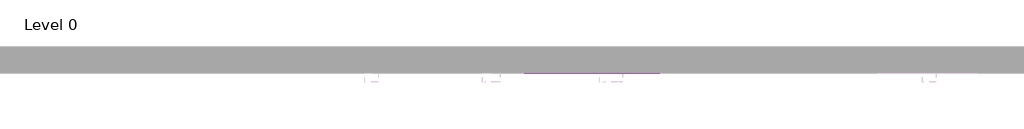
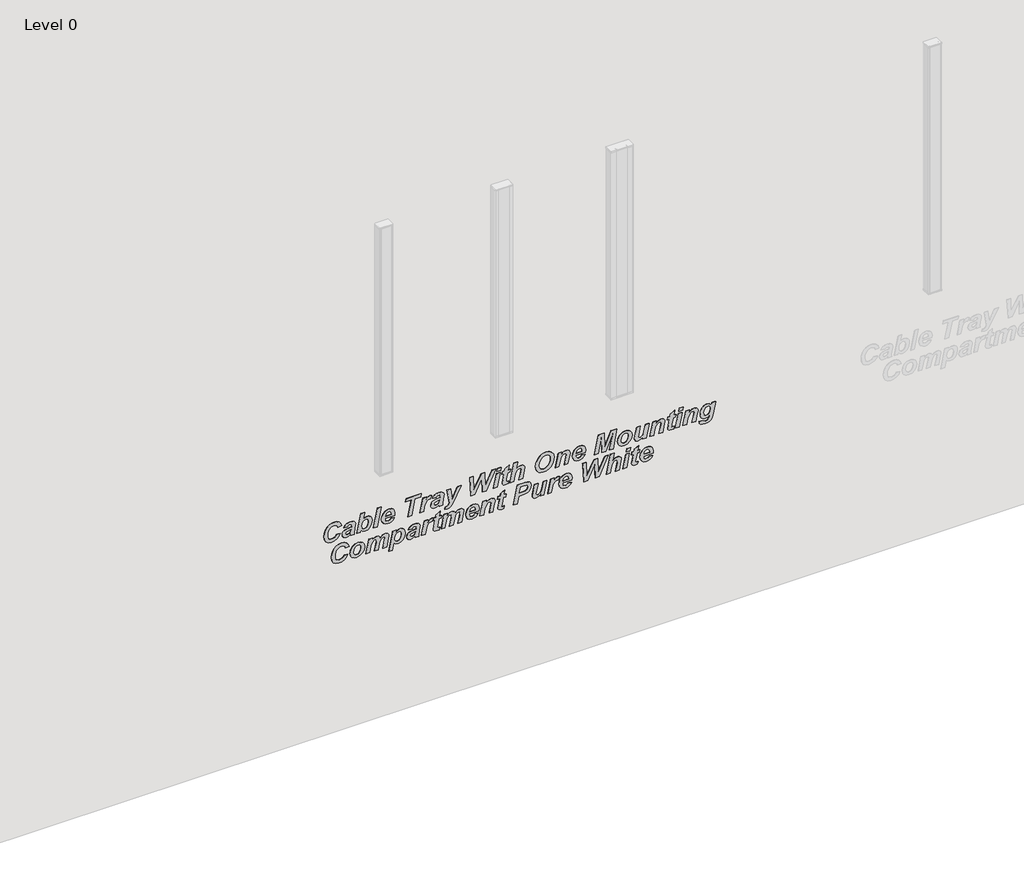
# One storey, part 2 of 5: 1 proxy.
"""IFC4 building model written with IfcOpenShell, lengths in millimetres."""

from ifc_helpers import new_model, si_unit, frame, origin, place, context, project, spatial, polyline, outline, extrude, element, save

model = new_model("IFC4")

# Units and contexts
model_context = context("Model", 3, world=origin())
ifc_project = project(units=[si_unit("LENGTHUNIT", "METRE", prefix="MILLI")], contexts=[model_context])

# Site, building, storey
site = spatial("IfcSite", under=ifc_project)
building = spatial("IfcBuilding", under=site)
storey = spatial("IfcBuildingStorey", under=building, Name="Level 0", Elevation=0.0)

# Proxy
placement = place(None, origin())
element("IfcBuildingElementProxy", 1, Name="200 mm Arial", ObjectType="200 mm Arial", at=placement, inside=storey, context=model_context, shape_type="SweptSolid", body=[
    extrude(outline(polyline([(1591.7743973, -11943.7217466), (1581.4274851, -11950.088004), (1573.973058, -11959.0677287), (1567.9648735, -11981.6681751), (1570.41093, -11993.8566052), (1577.7490996, -12003.8593954), (1589.5794568, -12010.5418731), (1605.5020758, -12012.7693656), (1621.9222767, -12011.0580561), (1638.3703794, -12005.9241275), (1652.6560937, -11997.9395665), (1662.5891294, -11987.6763597), (1668.4066517, -11975.8413522), (1670.3458258, -11963.1413894), (1668.9367857, -11952.3294475), (1664.7096651, -11943.9263597), (1657.348244, -11937.8949237), (1646.536302, -11934.1979371), (1649.2892782, -11905.6265085), (1668.8670312, -11911.3510248), (1683.8502901, -11923.2418359), (1693.364799, -11940.5269921), (1696.536302, -11962.4345442), (1693.7321726, -11983.1981231), (1685.3197842, -12002.3340978), (1671.6153571, -12018.6612927), (1652.9351115, -12030.9985323), (1630.6787871, -12038.7552287), (1606.2461235, -12041.3407942), (1578.5396502, -12037.5368507), (1558.2922544, -12026.1250204), (1545.9038615, -12007.9516573), (1541.7743973, -11983.8631156), (1544.7505877, -11961.3928775), (1553.6791592, -11941.9732347), (1568.2438913, -11926.3203329), (1588.1285639, -11915.150318), (1591.7743973, -11943.7217466)])), frame((0.0, 4018.0812827, 0.0), z_axis=(0.0, 1.0, 0.0), x_axis=(0.0, 0.0, 1.0)), (0.0, 0.0, 1.0), 3.0),
    extrude(outline(polyline([(1622.7267782, -11860.3884132), (1631.5251413, -11854.2500204), (1634.6315401, -11841.9360323), (1631.3763318, -11830.8125204), (1623.2848139, -11827.0550799), (1613.2029687, -11828.9896037), (1609.036302, -11856.8913894), (1605.2742112, -11877.8502808), (1597.8569865, -11891.2477882), (1587.0636458, -11898.4603998), (1573.1732068, -11900.8646037), (1560.598802, -11898.697565), (1550.5541592, -11892.196449), (1543.9693377, -11882.3657198), (1541.7743973, -11870.2098418), (1545.4946354, -11853.5803775), (1556.2833258, -11838.9598418), (1544.1553496, -11836.5788894), (1544.1553496, -11807.4866275), (1559.7059449, -11810.3884132), (1587.0868973, -11805.8497228), (1616.3093675, -11799.3951097), (1626.8190401, -11798.4836513), (1638.1239136, -11800.9901618), (1647.5593675, -11808.509693), (1653.9349255, -11821.2654594), (1656.0601115, -11839.4806751), (1654.0093303, -11857.6307868), (1647.8569865, -11871.8281454), (1638.0588095, -11882.2215606), (1625.0705282, -11888.9598418), (1622.7267782, -11860.3884132)]), holes=[polyline([(1594.1553496, -11833.119068), (1590.286302, -11833.9747228), (1574.6240996, -11838.9412406), (1566.4023735, -11847.3861811), (1563.2029687, -11859.4211513), (1566.6999925, -11868.758949), (1575.2937425, -11872.2931751), (1585.1151711, -11867.6800799), (1592.8532663, -11839.9271037), (1594.1553496, -11833.119068)])]), frame((0.0, 4018.0812827, 0.0), z_axis=(0.0, 1.0, 0.0), x_axis=(0.0, 0.0, 1.0)), (0.0, 0.0, 1.0), 3.0),
    extrude(outline(polyline([(1544.1553496, -11788.9598418), (1544.1553496, -11762.2857347), (1561.380052, -11758.5282942), (1546.675811, -11744.7727138), (1541.7743973, -11724.9345442), (1546.0340699, -11706.5379668), (1559.0921056, -11689.7968954), (1581.9157663, -11677.0550799), (1610.8220163, -11672.2931751), (1630.2881621, -11674.8647897), (1644.4901711, -11682.5796335), (1653.1676264, -11694.5634504), (1656.0601115, -11709.9419847), (1653.4187425, -11725.1763597), (1644.6017782, -11740.1875204), (1694.1553496, -11729.2500204), (1694.1553496, -11758.3422823), (1544.1553496, -11788.9598418)]), holes=[polyline([(1588.1657663, -11750.8646037), (1608.1713467, -11748.1488299), (1624.2892782, -11740.0015085), (1632.0459746, -11731.3426543), (1634.6315401, -11721.1399013), (1632.9620833, -11713.3506528), (1627.9537127, -11706.7983835), (1620.0249553, -11702.3480487), (1609.5943377, -11700.8646037), (1585.7662127, -11705.2730859), (1568.5787127, -11716.322193), (1563.2029687, -11730.2916871), (1564.9375297, -11738.0483835), (1570.1412127, -11744.7262109), (1578.1164732, -11749.3300055), (1588.1657663, -11750.8646037)])]), frame((0.0, 4018.0812827, 0.0), z_axis=(0.0, 1.0, 0.0), x_axis=(0.0, 0.0, 1.0)), (0.0, 0.0, 1.0), 3.0),
    extrude(outline(polyline([(1544.1553496, -11662.7693656), (1544.1553496, -11633.6771037), (1694.1553496, -11603.0967466), (1694.1553496, -11632.1518061), (1544.1553496, -11662.7693656)])), frame((0.0, 4018.0812827, 0.0), z_axis=(0.0, 1.0, 0.0), x_axis=(0.0, 0.0, 1.0)), (0.0, 0.0, 1.0), 3.0),
    extrude(outline(polyline([(1589.3934449, -11500.4925799), (1608.738683, -11498.4836513), (1628.6512574, -11501.3761365), (1643.5973139, -11510.0535918), (1652.9444121, -11523.6417615), (1656.0601115, -11541.2663894), (1654.5836421, -11555.7822934), (1650.1542336, -11568.5264341), (1642.7718861, -11579.4988113), (1632.4365996, -11588.6994251), (1613.723802, -11597.8233091), (1592.5556473, -11600.8646037), (1571.8850743, -11597.4745368), (1555.7066889, -11587.3043359), (1545.2574702, -11571.7118879), (1541.7743973, -11552.0550799), (1543.7089211, -11537.0206677), (1549.5124925, -11523.5394549), (1559.1851115, -11512.1136737), (1572.7267782, -11503.2455561), (1577.488683, -11529.4360323), (1566.7743973, -11538.9691424), (1563.2029687, -11551.6458537), (1564.8259226, -11559.681568), (1569.6947842, -11566.3779966), (1577.2143154, -11570.8980859), (1586.7892782, -11572.4047823), (1589.3934449, -11572.2931751), (1589.3934449, -11500.4925799)]), holes=[polyline([(1606.0601115, -11527.0550799), (1606.0601115, -11569.3913894), (1618.4671056, -11565.9687704), (1627.4142782, -11560.3884132), (1632.8272246, -11553.3013597), (1634.6315401, -11545.3586513), (1633.0411383, -11537.8019177), (1628.269933, -11531.947193), (1620.317924, -11528.1944028), (1609.1851115, -11526.9434728), (1606.0601115, -11527.0550799)])]), frame((0.0, 4018.0812827, 0.0), z_axis=(0.0, 1.0, 0.0), x_axis=(0.0, 0.0, 1.0)), (0.0, 0.0, 1.0), 3.0),
    extrude(outline(polyline([(1544.1553496, -11370.9166871), (1670.3458258, -11345.4330561), (1670.3458258, -11300.8646037), (1694.1553496, -11296.102699), (1694.1553496, -11412.7693656), (1670.3458258, -11417.5312704), (1670.3458258, -11374.525318), (1544.1553496, -11400.008949), (1544.1553496, -11370.9166871)])), frame((0.0, 4018.0812827, 0.0), z_axis=(0.0, 1.0, 0.0), x_axis=(0.0, 0.0, 1.0)), (0.0, 0.0, 1.0), 3.0),
    extrude(outline(polyline([(1653.6791592, -11285.8720442), (1544.1553496, -11308.0074609), (1544.1553496, -11278.9524013), (1577.9723139, -11272.1443656), (1608.6270758, -11263.4018061), (1624.0846651, -11251.087818), (1629.8696354, -11235.6116275), (1628.4559449, -11227.0550799), (1652.8235044, -11215.150318), (1656.0601115, -11228.4687704), (1650.2472395, -11245.3958537), (1632.8086235, -11261.0580561), (1653.6791592, -11256.8169847), (1653.6791592, -11285.8720442)])), frame((0.0, 4018.0812827, 0.0), z_axis=(0.0, 1.0, 0.0), x_axis=(0.0, 0.0, 1.0)), (0.0, 0.0, 1.0), 3.0),
    extrude(outline(polyline([(1622.7267782, -11184.1979371), (1631.5251413, -11178.0595442), (1634.6315401, -11165.7455561), (1631.3763318, -11154.6220442), (1623.2848139, -11150.8646037), (1613.2029687, -11152.7991275), (1609.036302, -11180.7009132), (1605.2742112, -11201.6598046), (1597.8569865, -11215.0573121), (1587.0636458, -11222.2699237), (1573.1732068, -11224.6741275), (1560.598802, -11222.5070888), (1550.5541592, -11216.0059728), (1543.9693377, -11206.1752436), (1541.7743973, -11194.0193656), (1545.4946354, -11177.3899013), (1556.2833258, -11162.7693656), (1544.1553496, -11160.3884132), (1544.1553496, -11131.2961513), (1559.7059449, -11134.1979371), (1587.0868973, -11129.6592466), (1616.3093675, -11123.2046335), (1626.8190401, -11122.2931751), (1638.1239136, -11124.7996856), (1647.5593675, -11132.3192168), (1653.9349255, -11145.0749832), (1656.0601115, -11163.290199), (1654.0093303, -11181.4403106), (1647.8569865, -11195.6376692), (1638.0588095, -11206.0310844), (1625.0705282, -11212.7693656), (1622.7267782, -11184.1979371)]), holes=[polyline([(1594.1553496, -11156.9285918), (1590.286302, -11157.7842466), (1574.6240996, -11162.7507644), (1566.4023735, -11171.1957049), (1563.2029687, -11183.2306751), (1566.6999925, -11192.5684728), (1575.2937425, -11196.102699), (1585.1151711, -11191.4896037), (1592.8532663, -11163.7366275), (1594.1553496, -11156.9285918)])]), frame((0.0, 4018.0812827, 0.0), z_axis=(0.0, 1.0, 0.0), x_axis=(0.0, 0.0, 1.0)), (0.0, 0.0, 1.0), 3.0),
    extrude(outline(polyline([(1653.6791592, -11100.8646037), (1544.1553496, -11084.1979371), (1528.0839211, -11093.6101394), (1522.7267782, -11105.3288894), (1524.2520758, -11115.150318), (1504.2743973, -11117.5312704), (1501.2982068, -11097.2559728), (1504.4232068, -11081.6867763), (1513.035558, -11070.6004668), (1532.2505877, -11058.0074609), (1653.6791592, -10990.931568), (1653.6791592, -11022.2931751), (1603.1955282, -11046.2515085), (1570.3458258, -11061.8393061), (1598.2104092, -11065.2247228), (1653.6791592, -11071.9955561), (1653.6791592, -11100.8646037)])), frame((0.0, 4018.0812827, 0.0), z_axis=(0.0, 1.0, 0.0), x_axis=(0.0, 0.0, 1.0)), (0.0, 0.0, 1.0), 3.0),
    extrude(outline(polyline([(1544.1553496, -10800.8646037), (1694.1553496, -10729.4360323), (1694.1553496, -10758.0074609), (1590.286302, -10808.0074609), (1694.1553496, -10810.3884132), (1694.1553496, -10840.2991275), (1589.1702306, -10896.102699), (1694.1553496, -10898.4836513), (1694.1553496, -10927.0550799), (1544.1553496, -10917.5312704), (1544.1553496, -10886.5788894), (1653.8279687, -10834.1979371), (1544.1553496, -10831.8169847), (1544.1553496, -10800.8646037)])), frame((0.0, 4018.0812827, 0.0), z_axis=(0.0, 1.0, 0.0), x_axis=(0.0, 0.0, 1.0)), (0.0, 0.0, 1.0), 3.0),
    extrude(outline(polyline([(1653.6791592, -10723.744068), (1544.1553496, -10746.102699), (1544.1553496, -10717.0104371), (1653.6791592, -10694.6518061), (1653.6791592, -10723.744068)])), frame((0.0, 4018.0812827, 0.0), z_axis=(0.0, 1.0, 0.0), x_axis=(0.0, 0.0, 1.0)), (0.0, 0.0, 1.0), 3.0),
    extrude(outline(polyline([(1694.1553496, -10715.4851394), (1670.3458258, -10720.3586513), (1670.3458258, -10691.2663894), (1694.1553496, -10686.3928775), (1694.1553496, -10715.4851394)])), frame((0.0, 4018.0812827, 0.0), z_axis=(0.0, 1.0, 0.0), x_axis=(0.0, 0.0, 1.0)), (0.0, 0.0, 1.0), 3.0),
    extrude(outline(polyline([(1632.2505877, -10681.8169847), (1632.2505877, -10665.931568), (1586.7148735, -10674.9345442), (1563.9842187, -10679.4360323), (1554.6743229, -10677.6689192), (1547.6523735, -10672.3675799), (1543.2438913, -10663.1785918), (1541.7743973, -10649.7485323), (1543.1880877, -10634.1979371), (1563.2029687, -10629.4360323), (1562.5333258, -10639.2202585), (1564.4306473, -10647.0699609), (1569.7133854, -10649.227699), (1583.7758854, -10646.400318), (1632.2505877, -10636.7649013), (1632.2505877, -10619.9122228), (1653.6791592, -10615.150318), (1653.6791592, -10632.4866275), (1689.3934449, -10625.3437704), (1670.3458258, -10658.1934728), (1653.6791592, -10661.6904966), (1653.6791592, -10677.0550799), (1632.2505877, -10681.8169847)])), frame((0.0, 4018.0812827, 0.0), z_axis=(0.0, 1.0, 0.0), x_axis=(0.0, 0.0, 1.0)), (0.0, 0.0, 1.0), 3.0),
    extrude(outline(polyline([(1544.1553496, -10590.8199609), (1587.0868973, -10582.040199), (1612.7565401, -10575.4553775), (1629.4604092, -10561.9137109), (1634.6315401, -10547.6279966), (1631.1903199, -10538.3274013), (1622.019933, -10534.9047823), (1608.4410639, -10537.5833537), (1544.1553496, -10550.8646037), (1544.1553496, -10521.7723418), (1607.2133854, -10508.7515085), (1627.005052, -10504.696449), (1638.7749553, -10506.6449237), (1648.0429985, -10512.4903478), (1654.0558333, -10521.6932868), (1656.0601115, -10533.7143061), (1652.3026711, -10552.4271037), (1640.0258854, -10571.2515085), (1694.1553496, -10560.2024013), (1694.1553496, -10589.2946632), (1544.1553496, -10619.9122228), (1544.1553496, -10590.8199609)])), frame((0.0, 4018.0812827, 0.0), z_axis=(0.0, 1.0, 0.0), x_axis=(0.0, 0.0, 1.0)), (0.0, 0.0, 1.0), 3.0),
    extrude(outline(polyline([(1603.0839211, -10424.6741275), (1574.7729092, -10418.8705561), (1561.8822842, -10411.0394549), (1551.2610044, -10399.1532942), (1544.146049, -10383.5840978), (1541.7743973, -10364.7038894), (1544.7598883, -10342.3080561), (1553.7163615, -10322.3675799), (1568.2066889, -10305.603257), (1587.7937425, -10292.7358835), (1610.3104836, -10284.5467094), (1633.5898735, -10281.8169847), (1659.2455654, -10286.0069028), (1679.2929985, -10298.5766573), (1692.2254761, -10317.9544475), (1696.536302, -10342.5684728), (1694.4343675, -10361.806754), (1688.1285639, -10378.822193), (1678.2001785, -10393.368324), (1665.2304985, -10405.1986811), (1649.4334374, -10414.3272153), (1631.0229092, -10420.7678775), (1603.0839211, -10424.6741275)]), holes=[polyline([(1603.8279687, -10396.102699), (1627.6979464, -10392.5173195), (1649.5310937, -10381.7611811), (1665.1421428, -10365.2851766), (1670.3458258, -10344.540199), (1667.8579166, -10330.9706305), (1660.3941889, -10320.0238299), (1648.5591815, -10312.7972674), (1632.957433, -10310.3884132), (1617.0766666, -10312.290385), (1600.7587723, -10317.9963001), (1586.3242485, -10326.6133016), (1576.0935937, -10337.2485323), (1569.9970535, -10349.1439936), (1567.9648735, -10361.5416871), (1570.5411383, -10375.5576841), (1578.269933, -10386.5788894), (1589.8119717, -10393.7217466), (1603.8279687, -10396.102699)])]), frame((0.0, 4018.0812827, 0.0), z_axis=(0.0, 1.0, 0.0), x_axis=(0.0, 0.0, 1.0)), (0.0, 0.0, 1.0), 3.0),
    extrude(outline(polyline([(1653.6791592, -10252.5387109), (1544.1553496, -10274.6741275), (1544.1553496, -10245.619068), (1588.6121949, -10236.6160918), (1614.7282663, -10228.1711513), (1629.1627901, -10216.0617763), (1634.6315401, -10202.0178775), (1631.2275223, -10192.9590978), (1621.8711235, -10189.7038894), (1605.4276711, -10192.977699), (1544.1553496, -10205.6265085), (1544.1553496, -10176.5342466), (1605.2044568, -10163.9226394), (1626.4098139, -10159.5699609), (1638.5098883, -10161.4951841), (1647.9499925, -10167.2708537), (1654.0325818, -10176.3761365), (1656.0601115, -10188.290199), (1651.8562425, -10207.3192168), (1637.7565401, -10226.7202585), (1653.6791592, -10223.4836513), (1653.6791592, -10252.5387109)])), frame((0.0, 4018.0812827, 0.0), z_axis=(0.0, 1.0, 0.0), x_axis=(0.0, 0.0, 1.0)), (0.0, 0.0, 1.0), 3.0),
    extrude(outline(polyline([(1589.3934449, -10043.3497228), (1608.738683, -10041.3407942), (1628.6512574, -10044.2332793), (1643.5973139, -10052.9107347), (1652.9444121, -10066.4989043), (1656.0601115, -10084.1235323), (1654.5836421, -10098.6394363), (1650.1542336, -10111.3835769), (1642.7718861, -10122.3559542), (1632.4365996, -10131.556568), (1613.723802, -10140.6804519), (1592.5556473, -10143.7217466), (1571.8850743, -10140.3316796), (1555.7066889, -10130.1614787), (1545.2574702, -10114.5690308), (1541.7743973, -10094.9122228), (1543.7089211, -10079.8778106), (1549.5124925, -10066.3965978), (1559.1851115, -10054.9708165), (1572.7267782, -10046.102699), (1577.488683, -10072.2931751), (1566.7743973, -10081.8262853), (1563.2029687, -10094.5029966), (1564.8259226, -10102.5387109), (1569.6947842, -10109.2351394), (1577.2143154, -10113.7552287), (1586.7892782, -10115.2619251), (1589.3934449, -10115.150318), (1589.3934449, -10043.3497228)]), holes=[polyline([(1606.0601115, -10069.9122228), (1606.0601115, -10112.2485323), (1618.4671056, -10108.8259132), (1627.4142782, -10103.2455561), (1632.8272246, -10096.1585025), (1634.6315401, -10088.2157942), (1633.0411383, -10080.6590606), (1628.269933, -10074.8043359), (1620.317924, -10071.0515457), (1609.1851115, -10069.8006156), (1606.0601115, -10069.9122228)])]), frame((0.0, 4018.0812827, 0.0), z_axis=(0.0, 1.0, 0.0), x_axis=(0.0, 0.0, 1.0)), (0.0, 0.0, 1.0), 3.0),
    extrude(outline(polyline([(1544.1553496, -9888.9598418), (1667.9648735, -9835.3884132), (1544.1553496, -9860.3884132), (1544.1553496, -9831.2961513), (1694.1553496, -9803.133949), (1694.1553496, -9849.1160918), (1586.7148735, -9896.102699), (1694.1553496, -9900.6785918), (1694.1553496, -9944.4285918), (1544.1553496, -9975.0833537), (1544.1553496, -9946.102699), (1668.0392782, -9923.4836513), (1544.1553496, -9917.5312704), (1544.1553496, -9888.9598418)])), frame((0.0, 4018.0812827, 0.0), z_axis=(0.0, 1.0, 0.0), x_axis=(0.0, 0.0, 1.0)), (0.0, 0.0, 1.0), 3.0),
    extrude(outline(polyline([(1589.6538615, -9798.4836513), (1565.4165104, -9792.6986811), (1555.4044196, -9785.416315), (1547.9499925, -9775.1391573), (1543.3182961, -9762.5042987), (1541.7743973, -9748.1488299), (1546.6060565, -9722.8977138), (1561.1010342, -9703.3199609), (1582.2180357, -9690.7641573), (1606.9157663, -9686.5788894), (1627.1259598, -9689.9271037), (1642.7416592, -9699.9717466), (1652.7304985, -9715.978071), (1656.0601115, -9737.2113299), (1651.5493229, -9762.0532198), (1638.0169568, -9781.5937704), (1616.9046056, -9794.2611811), (1589.6538615, -9798.4836513)]), holes=[polyline([(1610.7848139, -9715.150318), (1590.7048288, -9718.0986067), (1573.9172544, -9726.9434728), (1565.8815401, -9736.1882644), (1563.2029687, -9747.4047823), (1564.9793824, -9756.2868507), (1570.3086235, -9763.5134132), (1578.6512574, -9768.3125204), (1589.4678496, -9769.9122228), (1610.8406175, -9765.7827585), (1628.5303496, -9754.212818), (1633.1062425, -9746.2329073), (1634.6315401, -9737.1741275), (1633.003936, -9728.3525129), (1628.1211235, -9721.3073121), (1620.5318377, -9716.6895665), (1610.7848139, -9715.150318)])]), frame((0.0, 4018.0812827, 0.0), z_axis=(0.0, 1.0, 0.0), x_axis=(0.0, 0.0, 1.0)), (0.0, 0.0, 1.0), 3.0),
    extrude(outline(polyline([(1653.6791592, -9652.3154966), (1592.2580282, -9666.0803775), (1569.5273735, -9669.837818), (1558.129494, -9668.0009504), (1549.3078794, -9662.4903478), (1543.6577678, -9653.7617391), (1541.7743973, -9642.2708537), (1546.1363764, -9622.7489043), (1559.2223139, -9604.7336513), (1544.1553496, -9607.821449), (1544.1553496, -9578.915199), (1653.6791592, -9556.556568), (1653.6791592, -9585.6488299), (1600.2565401, -9596.4375204), (1585.4499925, -9600.4553775), (1575.6099627, -9606.2031454), (1568.9693377, -9613.1227882), (1564.6352604, -9620.6562704), (1563.2029687, -9628.0967466), (1566.5883854, -9636.7090978), (1574.6985044, -9640.0759132), (1589.1702306, -9637.4717466), (1653.6791592, -9623.2232347), (1653.6791592, -9652.3154966)])), frame((0.0, 4018.0812827, 0.0), z_axis=(0.0, 1.0, 0.0), x_axis=(0.0, 0.0, 1.0)), (0.0, 0.0, 1.0), 3.0),
    extrude(outline(polyline([(1653.6791592, -9528.7291871), (1544.1553496, -9550.8646037), (1544.1553496, -9521.8095442), (1588.6121949, -9512.806568), (1614.7282663, -9504.3616275), (1629.1627901, -9492.2522525), (1634.6315401, -9478.2083537), (1631.2275223, -9469.149574), (1621.8711235, -9465.8943656), (1605.4276711, -9469.1681751), (1544.1553496, -9481.8169847), (1544.1553496, -9452.7247228), (1605.2044568, -9440.1131156), (1626.4098139, -9435.7604371), (1638.5098883, -9437.6856603), (1647.9499925, -9443.4613299), (1654.0325818, -9452.5666126), (1656.0601115, -9464.4806751), (1651.8562425, -9483.509693), (1637.7565401, -9502.9107347), (1653.6791592, -9499.6741275), (1653.6791592, -9528.7291871)])), frame((0.0, 4018.0812827, 0.0), z_axis=(0.0, 1.0, 0.0), x_axis=(0.0, 0.0, 1.0)), (0.0, 0.0, 1.0), 3.0),
    extrude(outline(polyline([(1632.2505877, -9417.5312704), (1632.2505877, -9401.6458537), (1586.7148735, -9410.6488299), (1563.9842187, -9415.150318), (1554.6743229, -9413.3832049), (1547.6523735, -9408.0818656), (1543.2438913, -9398.8928775), (1541.7743973, -9385.462818), (1543.1880877, -9369.9122228), (1563.2029687, -9365.150318), (1562.5333258, -9374.9345442), (1564.4306473, -9382.7842466), (1569.7133854, -9384.9419847), (1583.7758854, -9382.1146037), (1632.2505877, -9372.4791871), (1632.2505877, -9355.6265085), (1653.6791592, -9350.8646037), (1653.6791592, -9368.2009132), (1689.3934449, -9361.0580561), (1670.3458258, -9393.9077585), (1653.6791592, -9397.4047823), (1653.6791592, -9412.7693656), (1632.2505877, -9417.5312704)])), frame((0.0, 4018.0812827, 0.0), z_axis=(0.0, 1.0, 0.0), x_axis=(0.0, 0.0, 1.0)), (0.0, 0.0, 1.0), 3.0),
    extrude(outline(polyline([(1653.6791592, -9333.2678775), (1544.1553496, -9355.6265085), (1544.1553496, -9326.5342466), (1653.6791592, -9304.1756156), (1653.6791592, -9333.2678775)])), frame((0.0, 4018.0812827, 0.0), z_axis=(0.0, 1.0, 0.0), x_axis=(0.0, 0.0, 1.0)), (0.0, 0.0, 1.0), 3.0),
    extrude(outline(polyline([(1694.1553496, -9325.008949), (1670.3458258, -9329.8824609), (1670.3458258, -9300.790199), (1694.1553496, -9295.9166871), (1694.1553496, -9325.008949)])), frame((0.0, 4018.0812827, 0.0), z_axis=(0.0, 1.0, 0.0), x_axis=(0.0, 0.0, 1.0)), (0.0, 0.0, 1.0), 3.0),
    extrude(outline(polyline([(1653.6791592, -9276.3482347), (1544.1553496, -9298.4836513), (1544.1553496, -9269.4285918), (1588.6121949, -9260.4256156), (1614.7282663, -9251.9806751), (1629.1627901, -9239.8713001), (1634.6315401, -9225.8274013), (1631.2275223, -9216.7686216), (1621.8711235, -9213.5134132), (1605.4276711, -9216.7872228), (1544.1553496, -9229.4360323), (1544.1553496, -9200.3437704), (1605.2044568, -9187.7321632), (1626.4098139, -9183.3794847), (1638.5098883, -9185.3047079), (1647.9499925, -9191.0803775), (1654.0325818, -9200.1856603), (1656.0601115, -9212.0997228), (1651.8562425, -9231.1287406), (1637.7565401, -9250.5297823), (1653.6791592, -9247.2931751), (1653.6791592, -9276.3482347)])), frame((0.0, 4018.0812827, 0.0), z_axis=(0.0, 1.0, 0.0), x_axis=(0.0, 0.0, 1.0)), (0.0, 0.0, 1.0), 3.0),
    extrude(outline(polyline([(1534.6315401, -9175.4553775), (1530.911302, -9175.7529966), (1517.2580282, -9172.6605487), (1508.1434449, -9163.3832049), (1503.0095163, -9148.0511737), (1501.2982068, -9126.7946632), (1502.879308, -9108.3608835), (1508.0876413, -9093.6101394), (1517.0534151, -9083.2678775), (1531.4135342, -9075.9948121), (1561.5288615, -9068.2009132), (1653.6791592, -9049.227699), (1653.6791592, -9078.2827585), (1634.3711235, -9082.2634132), (1650.3495461, -9095.7492763), (1656.0601115, -9114.8154966), (1654.0093303, -9127.9246856), (1647.8569865, -9140.7641573), (1637.7053868, -9152.0504296), (1623.6568377, -9160.5000204), (1606.8599627, -9165.7734579), (1588.4633854, -9167.5312704), (1569.3460118, -9164.9457049), (1555.4462723, -9157.1890085), (1546.9780803, -9145.3958537), (1544.1553496, -9130.7009132), (1547.2896502, -9114.2202585), (1556.692552, -9098.2604371), (1551.5958258, -9099.3393061), (1535.0035639, -9103.6547823), (1526.223802, -9110.6860323), (1522.7267782, -9126.0506156), (1523.880052, -9137.899574), (1526.6702306, -9144.1681751), (1531.5437425, -9146.102699), (1534.6315401, -9175.4553775)]), holes=[polyline([(1591.0303496, -9138.9598418), (1609.0735044, -9135.6488299), (1628.3815401, -9124.5997228), (1634.6315401, -9109.9047823), (1632.8597767, -9102.2410918), (1627.5444865, -9095.5446632), (1619.3367112, -9090.885065), (1608.8874925, -9089.3318656), (1588.0541592, -9093.1637109), (1571.4246949, -9104.212818), (1565.5839211, -9119.0937704), (1567.2115252, -9126.9016201), (1572.0943377, -9133.2864787), (1580.083549, -9137.541501), (1591.0303496, -9138.9598418)])]), frame((0.0, 4018.0812827, 0.0), z_axis=(0.0, 1.0, 0.0), x_axis=(0.0, 0.0, 1.0)), (0.0, 0.0, 1.0), 3.0),
    extrude(outline(polyline([(1403.6791592, -11886.5788894), (1393.332247, -11892.9451469), (1385.8778199, -11901.9248716), (1379.8696354, -11924.525318), (1382.3156919, -11936.7137481), (1389.6538615, -11946.7165382), (1401.4842187, -11953.3990159), (1417.4068377, -11955.6265085), (1433.8270386, -11953.915199), (1450.2751413, -11948.7812704), (1464.5608556, -11940.7967094), (1474.4938913, -11930.5335025), (1480.3114136, -11918.6984951), (1482.2505877, -11905.9985323), (1480.8415476, -11895.1865903), (1476.614427, -11886.7835025), (1469.2530059, -11880.7520665), (1458.4410639, -11877.0550799), (1461.1940401, -11848.4836513), (1480.7717931, -11854.2081677), (1495.755052, -11866.0989787), (1505.269561, -11883.384135), (1508.4410639, -11905.2916871), (1505.6369345, -11926.0552659), (1497.2245461, -11945.1912406), (1483.520119, -11961.5184356), (1464.8398735, -11973.8556751), (1442.583549, -11981.6123716), (1418.1508854, -11984.1979371), (1390.4444121, -11980.3939936), (1370.1970163, -11968.9821632), (1357.8086235, -11950.8088001), (1353.6791592, -11926.7202585), (1356.6553496, -11904.2500204), (1365.5839211, -11884.8303775), (1380.1486532, -11869.1774757), (1400.0333258, -11858.0074609), (1403.6791592, -11886.5788894)])), frame((0.0, 4018.0812827, 0.0), z_axis=(0.0, 1.0, 0.0), x_axis=(0.0, 0.0, 1.0)), (0.0, 0.0, 1.0), 3.0),
    extrude(outline(polyline([(1401.5586235, -11841.3407942), (1377.3212723, -11835.555824), (1367.3091815, -11828.2734579), (1359.8547544, -11817.9963001), (1355.223058, -11805.3614415), (1353.6791592, -11791.0059728), (1358.5108184, -11765.7548567), (1373.0057961, -11746.1771037), (1394.1227976, -11733.6213001), (1418.8205282, -11729.4360323), (1439.0307217, -11732.7842466), (1454.6464211, -11742.8288894), (1464.6352604, -11758.8352138), (1467.9648735, -11780.0684728), (1463.4540848, -11804.9103626), (1449.9217187, -11824.4509132), (1428.8093675, -11837.118324), (1401.5586235, -11841.3407942)]), holes=[polyline([(1422.6895758, -11758.0074609), (1402.6095907, -11760.9557496), (1385.8220163, -11769.8006156), (1377.786302, -11779.0454073), (1375.1077306, -11790.2619251), (1376.8841443, -11799.1439936), (1382.2133854, -11806.3705561), (1390.5560193, -11811.1696632), (1401.3726115, -11812.7693656), (1422.7453794, -11808.6399013), (1440.4351115, -11797.0699609), (1445.0110044, -11789.0900501), (1446.536302, -11780.0312704), (1444.9086979, -11771.2096558), (1440.0258854, -11764.1644549), (1432.4365996, -11759.5467094), (1422.6895758, -11758.0074609)])]), frame((0.0, 4018.0812827, 0.0), z_axis=(0.0, 1.0, 0.0), x_axis=(0.0, 0.0, 1.0)), (0.0, 0.0, 1.0), 3.0),
    extrude(outline(polyline([(1465.5839211, -11697.7768061), (1356.0601115, -11719.9122228), (1356.0601115, -11690.8571632), (1405.613683, -11680.8125204), (1422.5407663, -11675.6413894), (1435.6360044, -11669.1681751), (1443.6345163, -11660.3884132), (1446.536302, -11650.6785918), (1443.7647246, -11642.7730859), (1436.6776711, -11639.8899013), (1421.9083258, -11642.2336513), (1356.0601115, -11655.6265085), (1356.0601115, -11626.5342466), (1404.6836235, -11616.4896037), (1434.7059449, -11605.7009132), (1443.5787127, -11596.400318), (1446.536302, -11585.9092466), (1443.6159151, -11577.6875204), (1435.6360044, -11574.9345442), (1421.4618973, -11577.8735323), (1356.0601115, -11591.3407942), (1356.0601115, -11562.2485323), (1421.4618973, -11548.7812704), (1440.4723139, -11544.8750204), (1451.6748809, -11546.6886365), (1460.4313913, -11552.1294847), (1466.0815029, -11560.8255412), (1467.9648735, -11572.4047823), (1462.3287127, -11594.2797823), (1448.3220163, -11610.4256156), (1462.7379389, -11618.9263597), (1466.6581398, -11626.9760248), (1467.9648735, -11637.8437704), (1463.5377901, -11655.2451841), (1450.2565401, -11671.8095442), (1465.5839211, -11668.7217466), (1465.5839211, -11697.7768061)])), frame((0.0, 4018.0812827, 0.0), z_axis=(0.0, 1.0, 0.0), x_axis=(0.0, 0.0, 1.0)), (0.0, 0.0, 1.0), 3.0),
    extrude(outline(polyline([(1465.5839211, -11515.150318), (1313.2029687, -11546.102699), (1313.2029687, -11517.0476394), (1370.755052, -11505.3288894), (1357.9481324, -11491.8709281), (1353.6791592, -11473.2232347), (1358.0225371, -11453.9896037), (1371.0526711, -11437.508949), (1393.6903199, -11424.3114043), (1420.9038615, -11419.9122228), (1441.4349255, -11422.4140829), (1456.1531175, -11429.9196632), (1465.0119345, -11441.5361067), (1467.9648735, -11456.3705561), (1464.7468675, -11472.4233835), (1454.051183, -11488.4762109), (1465.5839211, -11486.1324609), (1465.5839211, -11515.150318)]), holes=[polyline([(1402.4142782, -11498.9672823), (1422.8383854, -11495.1726394), (1440.5281175, -11484.4769549), (1446.536302, -11469.1681751), (1444.894747, -11460.9557496), (1439.9700818, -11454.3244251), (1431.957619, -11449.9438448), (1421.0526711, -11448.4836513), (1398.1546056, -11452.9293359), (1380.4462723, -11464.1458537), (1375.1077306, -11478.1711513), (1376.8980952, -11486.025504), (1382.2691889, -11492.7730859), (1390.8861904, -11497.4187332), (1402.4142782, -11498.9672823)])]), frame((0.0, 4018.0812827, 0.0), z_axis=(0.0, 1.0, 0.0), x_axis=(0.0, 0.0, 1.0)), (0.0, 0.0, 1.0), 3.0),
    extrude(outline(polyline([(1434.6315401, -11367.5312704), (1443.4299032, -11361.3928775), (1446.536302, -11349.0788894), (1443.2810937, -11337.9553775), (1435.1895758, -11334.1979371), (1425.1077306, -11336.1324609), (1420.9410639, -11364.0342466), (1417.1789732, -11384.9931379), (1409.7617485, -11398.3906454), (1398.9684077, -11405.603257), (1385.0779687, -11408.0074609), (1372.5035639, -11405.8404222), (1362.4589211, -11399.3393061), (1355.8740996, -11389.5085769), (1353.6791592, -11377.352699), (1357.3993973, -11360.7232347), (1368.1880877, -11346.102699), (1356.0601115, -11343.7217466), (1356.0601115, -11314.6294847), (1371.6107068, -11317.5312704), (1398.9916592, -11312.9925799), (1428.2141294, -11306.5379668), (1438.723802, -11305.6265085), (1450.0286755, -11308.1330189), (1459.4641294, -11315.6525501), (1465.8396874, -11328.4083165), (1467.9648735, -11346.6235323), (1465.9140922, -11364.7736439), (1459.7617485, -11378.9710025), (1449.9635714, -11389.3644177), (1436.9752901, -11396.102699), (1434.6315401, -11367.5312704)]), holes=[polyline([(1406.0601115, -11340.2619251), (1402.1910639, -11341.1175799), (1386.5288615, -11346.0840978), (1378.3071354, -11354.5290382), (1375.1077306, -11366.5640085), (1378.6047544, -11375.9018061), (1387.1985044, -11379.4360323), (1397.019933, -11374.8229371), (1404.7580282, -11347.0699609), (1406.0601115, -11340.2619251)])]), frame((0.0, 4018.0812827, 0.0), z_axis=(0.0, 1.0, 0.0), x_axis=(0.0, 0.0, 1.0)), (0.0, 0.0, 1.0), 3.0),
    extrude(outline(polyline([(1465.5839211, -11273.9672823), (1356.0601115, -11296.102699), (1356.0601115, -11267.0476394), (1389.8770758, -11260.2396037), (1420.5318377, -11251.4970442), (1435.989427, -11239.1830561), (1441.7743973, -11223.7068656), (1440.3607068, -11215.150318), (1464.7282663, -11203.2455561), (1467.9648735, -11216.5640085), (1462.1520014, -11233.4910918), (1444.7133854, -11249.1532942), (1465.5839211, -11244.9122228), (1465.5839211, -11273.9672823)])), frame((0.0, 4018.0812827, 0.0), z_axis=(0.0, 1.0, 0.0), x_axis=(0.0, 0.0, 1.0)), (0.0, 0.0, 1.0), 3.0),
    extrude(outline(polyline([(1444.1553496, -11208.0074609), (1444.1553496, -11192.1220442), (1398.6196354, -11201.1250204), (1375.8889806, -11205.6265085), (1366.5790848, -11203.8593954), (1359.5571354, -11198.5580561), (1355.1486532, -11189.369068), (1353.6791592, -11175.9390085), (1355.0928496, -11160.3884132), (1375.1077306, -11155.6265085), (1374.4380877, -11165.4107347), (1376.3354092, -11173.2604371), (1381.6181473, -11175.4181751), (1395.6806473, -11172.5907942), (1444.1553496, -11162.9553775), (1444.1553496, -11146.102699), (1465.5839211, -11141.3407942), (1465.5839211, -11158.6771037), (1501.2982068, -11151.5342466), (1482.2505877, -11184.383949), (1465.5839211, -11187.8809728), (1465.5839211, -11203.2455561), (1444.1553496, -11208.0074609)])), frame((0.0, 4018.0812827, 0.0), z_axis=(0.0, 1.0, 0.0), x_axis=(0.0, 0.0, 1.0)), (0.0, 0.0, 1.0), 3.0),
    extrude(outline(polyline([(1465.5839211, -11123.9672823), (1356.0601115, -11146.102699), (1356.0601115, -11117.0476394), (1405.613683, -11107.0029966), (1422.5407663, -11101.8318656), (1435.6360044, -11095.3586513), (1443.6345163, -11086.5788894), (1446.536302, -11076.869068), (1443.7647246, -11068.9635621), (1436.6776711, -11066.0803775), (1421.9083258, -11068.4241275), (1356.0601115, -11081.8169847), (1356.0601115, -11052.7247228), (1404.6836235, -11042.6800799), (1434.7059449, -11031.8913894), (1443.5787127, -11022.5907942), (1446.536302, -11012.0997228), (1443.6159151, -11003.8779966), (1435.6360044, -11001.1250204), (1421.4618973, -11004.0640085), (1356.0601115, -11017.5312704), (1356.0601115, -10988.4390085), (1421.4618973, -10974.9717466), (1440.4723139, -10971.0654966), (1451.6748809, -10972.8791126), (1460.4313913, -10978.3199609), (1466.0815029, -10987.0160174), (1467.9648735, -10998.5952585), (1462.3287127, -11020.4702585), (1448.3220163, -11036.6160918), (1462.7379389, -11045.1168359), (1466.6581398, -11053.166501), (1467.9648735, -11064.0342466), (1463.5377901, -11081.4356603), (1450.2565401, -11098.0000204), (1465.5839211, -11094.9122228), (1465.5839211, -11123.9672823)])), frame((0.0, 4018.0812827, 0.0), z_axis=(0.0, 1.0, 0.0), x_axis=(0.0, 0.0, 1.0)), (0.0, 0.0, 1.0), 3.0),
    extrude(outline(polyline([(1401.2982068, -10857.6354371), (1420.6434449, -10855.6265085), (1440.5560193, -10858.5189936), (1455.5020758, -10867.196449), (1464.849174, -10880.7846186), (1467.9648735, -10898.4092466), (1466.488404, -10912.9251506), (1462.0589955, -10925.6692912), (1454.676648, -10936.6416684), (1444.3413615, -10945.8422823), (1425.6285639, -10954.9661662), (1404.4604092, -10958.0074609), (1383.7898362, -10954.6173939), (1367.6114508, -10944.447193), (1357.1622321, -10928.8547451), (1353.6791592, -10909.1979371), (1355.613683, -10894.1635248), (1361.4172544, -10880.6823121), (1371.0898735, -10869.2565308), (1384.6315401, -10860.3884132), (1389.3934449, -10886.5788894), (1378.6791592, -10896.1119996), (1375.1077306, -10908.7887109), (1376.7306845, -10916.8244251), (1381.5995461, -10923.5208537), (1389.1190773, -10928.040943), (1398.6940401, -10929.5476394), (1401.2982068, -10929.4360323), (1401.2982068, -10857.6354371)]), holes=[polyline([(1417.9648735, -10884.1979371), (1417.9648735, -10926.5342466), (1430.3718675, -10923.1116275), (1439.3190401, -10917.5312704), (1444.7319865, -10910.4442168), (1446.536302, -10902.5015085), (1444.9459002, -10894.9447748), (1440.1746949, -10889.0900501), (1432.222686, -10885.33726), (1421.0898735, -10884.0863299), (1417.9648735, -10884.1979371)])]), frame((0.0, 4018.0812827, 0.0), z_axis=(0.0, 1.0, 0.0), x_axis=(0.0, 0.0, 1.0)), (0.0, 0.0, 1.0), 3.0),
    extrude(outline(polyline([(1465.5839211, -10826.3482347), (1356.0601115, -10848.4836513), (1356.0601115, -10819.4285918), (1400.5169568, -10810.4256156), (1426.6330282, -10801.9806751), (1441.067552, -10789.8713001), (1446.536302, -10775.8274013), (1443.1322842, -10766.7686216), (1433.7758854, -10763.5134132), (1417.332433, -10766.7872228), (1356.0601115, -10779.4360323), (1356.0601115, -10750.3437704), (1417.1092187, -10737.7321632), (1438.3145758, -10733.3794847), (1450.4146502, -10735.3047079), (1459.8547544, -10741.0803775), (1465.9373437, -10750.1856603), (1467.9648735, -10762.0997228), (1463.7610044, -10781.1287406), (1449.661302, -10800.5297823), (1465.5839211, -10797.2931751), (1465.5839211, -10826.3482347)])), frame((0.0, 4018.0812827, 0.0), z_axis=(0.0, 1.0, 0.0), x_axis=(0.0, 0.0, 1.0)), (0.0, 0.0, 1.0), 3.0),
    extrude(outline(polyline([(1444.1553496, -10715.150318), (1444.1553496, -10699.2649013), (1398.6196354, -10708.2678775), (1375.8889806, -10712.7693656), (1366.5790848, -10711.0022525), (1359.5571354, -10705.7009132), (1355.1486532, -10696.5119251), (1353.6791592, -10683.0818656), (1355.0928496, -10667.5312704), (1375.1077306, -10662.7693656), (1374.4380877, -10672.5535918), (1376.3354092, -10680.4032942), (1381.6181473, -10682.5610323), (1395.6806473, -10679.7336513), (1444.1553496, -10670.0982347), (1444.1553496, -10653.2455561), (1465.5839211, -10648.4836513), (1465.5839211, -10665.8199609), (1501.2982068, -10658.6771037), (1482.2505877, -10691.5268061), (1465.5839211, -10695.0238299), (1465.5839211, -10710.3884132), (1444.1553496, -10715.150318)])), frame((0.0, 4018.0812827, 0.0), z_axis=(0.0, 1.0, 0.0), x_axis=(0.0, 0.0, 1.0)), (0.0, 0.0, 1.0), 3.0),
    extrude(outline(polyline([(1356.0601115, -10564.6294847), (1413.2029687, -10552.9479371), (1413.2029687, -10532.8958537), (1414.2446354, -10505.2172823), (1419.285558, -10485.0535918), (1429.0697842, -10471.0654966), (1446.2758854, -10460.0907942), (1468.3740996, -10455.6265085), (1489.5422544, -10461.1696632), (1497.1408407, -10467.6986811), (1502.2282663, -10476.1994251), (1506.0601115, -10501.9806751), (1506.0601115, -10563.1413894), (1356.0601115, -10593.7217466), (1356.0601115, -10564.6294847)]), holes=[polyline([(1437.0124925, -10548.1116275), (1482.2505877, -10538.8854371), (1482.2505877, -10515.0387109), (1480.5950818, -10494.0937704), (1475.2937425, -10486.8021037), (1465.9931473, -10484.1979371), (1450.4797544, -10489.2388597), (1440.2118973, -10503.0223418), (1437.0124925, -10537.9181751), (1437.0124925, -10548.1116275)])]), frame((0.0, 4018.0812827, 0.0), z_axis=(0.0, 1.0, 0.0), x_axis=(0.0, 0.0, 1.0)), (0.0, 0.0, 1.0), 3.0),
    extrude(outline(polyline([(1465.5839211, -10433.2678775), (1404.1627901, -10447.0327585), (1381.4321354, -10450.790199), (1370.0342559, -10448.9533314), (1361.2126413, -10443.4427287), (1355.5625297, -10434.7141201), (1353.6791592, -10423.2232347), (1358.0411383, -10403.7012853), (1371.1270758, -10385.6860323), (1356.0601115, -10388.7738299), (1356.0601115, -10359.8675799), (1465.5839211, -10337.508949), (1465.5839211, -10366.6012109), (1412.161302, -10377.3899013), (1397.3547544, -10381.4077585), (1387.5147246, -10387.1555263), (1380.8740996, -10394.0751692), (1376.5400223, -10401.6086513), (1375.1077306, -10409.0491275), (1378.4931473, -10417.6614787), (1386.6032663, -10421.0282942), (1401.0749925, -10418.4241275), (1465.5839211, -10404.1756156), (1465.5839211, -10433.2678775)])), frame((0.0, 4018.0812827, 0.0), z_axis=(0.0, 1.0, 0.0), x_axis=(0.0, 0.0, 1.0)), (0.0, 0.0, 1.0), 3.0),
    extrude(outline(polyline([(1465.5839211, -10309.681568), (1356.0601115, -10331.8169847), (1356.0601115, -10302.7619251), (1389.8770758, -10295.9538894), (1420.5318377, -10287.2113299), (1435.989427, -10274.8973418), (1441.7743973, -10259.4211513), (1440.3607068, -10250.8646037), (1464.7282663, -10238.9598418), (1467.9648735, -10252.2782942), (1462.1520014, -10269.2053775), (1444.7133854, -10284.8675799), (1465.5839211, -10280.6265085), (1465.5839211, -10309.681568)])), frame((0.0, 4018.0812827, 0.0), z_axis=(0.0, 1.0, 0.0), x_axis=(0.0, 0.0, 1.0)), (0.0, 0.0, 1.0), 3.0),
    extrude(outline(polyline([(1401.2982068, -10145.7306751), (1420.6434449, -10143.7217466), (1440.5560193, -10146.6142317), (1455.5020758, -10155.2916871), (1464.849174, -10168.8798567), (1467.9648735, -10186.5044847), (1466.488404, -10201.0203887), (1462.0589955, -10213.7645293), (1454.676648, -10224.7369065), (1444.3413615, -10233.9375204), (1425.6285639, -10243.0614043), (1404.4604092, -10246.102699), (1383.7898362, -10242.712632), (1367.6114508, -10232.5424311), (1357.1622321, -10216.9499832), (1353.6791592, -10197.2931751), (1355.613683, -10182.2587629), (1361.4172544, -10168.7775501), (1371.0898735, -10157.3517689), (1384.6315401, -10148.4836513), (1389.3934449, -10174.6741275), (1378.6791592, -10184.2072376), (1375.1077306, -10196.883949), (1376.7306845, -10204.9196632), (1381.5995461, -10211.6160918), (1389.1190773, -10216.1361811), (1398.6940401, -10217.6428775), (1401.2982068, -10217.5312704), (1401.2982068, -10145.7306751)]), holes=[polyline([(1417.9648735, -10172.2931751), (1417.9648735, -10214.6294847), (1430.3718675, -10211.2068656), (1439.3190401, -10205.6265085), (1444.7319865, -10198.5394549), (1446.536302, -10190.5967466), (1444.9459002, -10183.0400129), (1440.1746949, -10177.1852882), (1432.222686, -10173.4324981), (1421.0898735, -10172.181568), (1417.9648735, -10172.2931751)])]), frame((0.0, 4018.0812827, 0.0), z_axis=(0.0, 1.0, 0.0), x_axis=(0.0, 0.0, 1.0)), (0.0, 0.0, 1.0), 3.0),
    extrude(outline(polyline([(1356.0601115, -9938.9598418), (1506.0601115, -9867.5312704), (1506.0601115, -9896.102699), (1402.1910639, -9946.102699), (1506.0601115, -9948.4836513), (1506.0601115, -9978.3943656), (1401.0749925, -10034.1979371), (1506.0601115, -10036.5788894), (1506.0601115, -10065.150318), (1356.0601115, -10055.6265085), (1356.0601115, -10024.6741275), (1465.7327306, -9972.2931751), (1356.0601115, -9969.9122228), (1356.0601115, -9938.9598418)])), frame((0.0, 4018.0812827, 0.0), z_axis=(0.0, 1.0, 0.0), x_axis=(0.0, 0.0, 1.0)), (0.0, 0.0, 1.0), 3.0),
    extrude(outline(polyline([(1356.0601115, -9855.1056751), (1398.9916592, -9846.3259132), (1424.661302, -9839.7410918), (1441.3651711, -9826.1994251), (1446.536302, -9811.9137109), (1443.0950818, -9802.6131156), (1433.9246949, -9799.1904966), (1420.3458258, -9801.869068), (1356.0601115, -9815.150318), (1356.0601115, -9786.0580561), (1419.1181473, -9773.0372228), (1438.9098139, -9768.9821632), (1450.6797172, -9770.9306379), (1459.9477604, -9776.7760621), (1465.9605952, -9785.979001), (1467.9648735, -9798.0000204), (1464.207433, -9816.712818), (1451.9306473, -9835.5372228), (1506.0601115, -9824.4881156), (1506.0601115, -9853.5803775), (1356.0601115, -9884.1979371), (1356.0601115, -9855.1056751)])), frame((0.0, 4018.0812827, 0.0), z_axis=(0.0, 1.0, 0.0), x_axis=(0.0, 0.0, 1.0)), (0.0, 0.0, 1.0), 3.0),
    extrude(outline(polyline([(1465.5839211, -9735.6488299), (1356.0601115, -9758.0074609), (1356.0601115, -9728.915199), (1465.5839211, -9706.556568), (1465.5839211, -9735.6488299)])), frame((0.0, 4018.0812827, 0.0), z_axis=(0.0, 1.0, 0.0), x_axis=(0.0, 0.0, 1.0)), (0.0, 0.0, 1.0), 3.0),
    extrude(outline(polyline([(1506.0601115, -9727.3899013), (1482.2505877, -9732.2634132), (1482.2505877, -9703.1711513), (1506.0601115, -9698.2976394), (1506.0601115, -9727.3899013)])), frame((0.0, 4018.0812827, 0.0), z_axis=(0.0, 1.0, 0.0), x_axis=(0.0, 0.0, 1.0)), (0.0, 0.0, 1.0), 3.0),
    extrude(outline(polyline([(1444.1553496, -9693.7217466), (1444.1553496, -9677.8363299), (1398.6196354, -9686.8393061), (1375.8889806, -9691.3407942), (1366.5790848, -9689.5736811), (1359.5571354, -9684.2723418), (1355.1486532, -9675.0833537), (1353.6791592, -9661.6532942), (1355.0928496, -9646.102699), (1375.1077306, -9641.3407942), (1374.4380877, -9651.1250204), (1376.3354092, -9658.9747228), (1381.6181473, -9661.1324609), (1395.6806473, -9658.3050799), (1444.1553496, -9648.6696632), (1444.1553496, -9631.8169847), (1465.5839211, -9627.0550799), (1465.5839211, -9644.3913894), (1501.2982068, -9637.2485323), (1482.2505877, -9670.0982347), (1465.5839211, -9673.5952585), (1465.5839211, -9688.9598418), (1444.1553496, -9693.7217466)])), frame((0.0, 4018.0812827, 0.0), z_axis=(0.0, 1.0, 0.0), x_axis=(0.0, 0.0, 1.0)), (0.0, 0.0, 1.0), 3.0),
    extrude(outline(polyline([(1401.2982068, -9526.6830561), (1420.6434449, -9524.6741275), (1440.5560193, -9527.5666126), (1455.5020758, -9536.244068), (1464.849174, -9549.8322376), (1467.9648735, -9567.4568656), (1466.488404, -9581.9727696), (1462.0589955, -9594.7169103), (1454.676648, -9605.6892875), (1444.3413615, -9614.8899013), (1425.6285639, -9624.0137853), (1404.4604092, -9627.0550799), (1383.7898362, -9623.6650129), (1367.6114508, -9613.4948121), (1357.1622321, -9597.9023641), (1353.6791592, -9578.2455561), (1355.613683, -9563.2111439), (1361.4172544, -9549.7299311), (1371.0898735, -9538.3041498), (1384.6315401, -9529.4360323), (1389.3934449, -9555.6265085), (1378.6791592, -9565.1596186), (1375.1077306, -9577.8363299), (1376.7306845, -9585.8720442), (1381.5995461, -9592.5684728), (1389.1190773, -9597.0885621), (1398.6940401, -9598.5952585), (1401.2982068, -9598.4836513), (1401.2982068, -9526.6830561)]), holes=[polyline([(1417.9648735, -9553.2455561), (1417.9648735, -9595.5818656), (1430.3718675, -9592.1592466), (1439.3190401, -9586.5788894), (1444.7319865, -9579.4918359), (1446.536302, -9571.5491275), (1444.9459002, -9563.9923939), (1440.1746949, -9558.1376692), (1432.222686, -9554.384879), (1421.0898735, -9553.133949), (1417.9648735, -9553.2455561)])]), frame((0.0, 4018.0812827, 0.0), z_axis=(0.0, 1.0, 0.0), x_axis=(0.0, 0.0, 1.0)), (0.0, 0.0, 1.0), 3.0),
])

save(model, "model.ifc")
